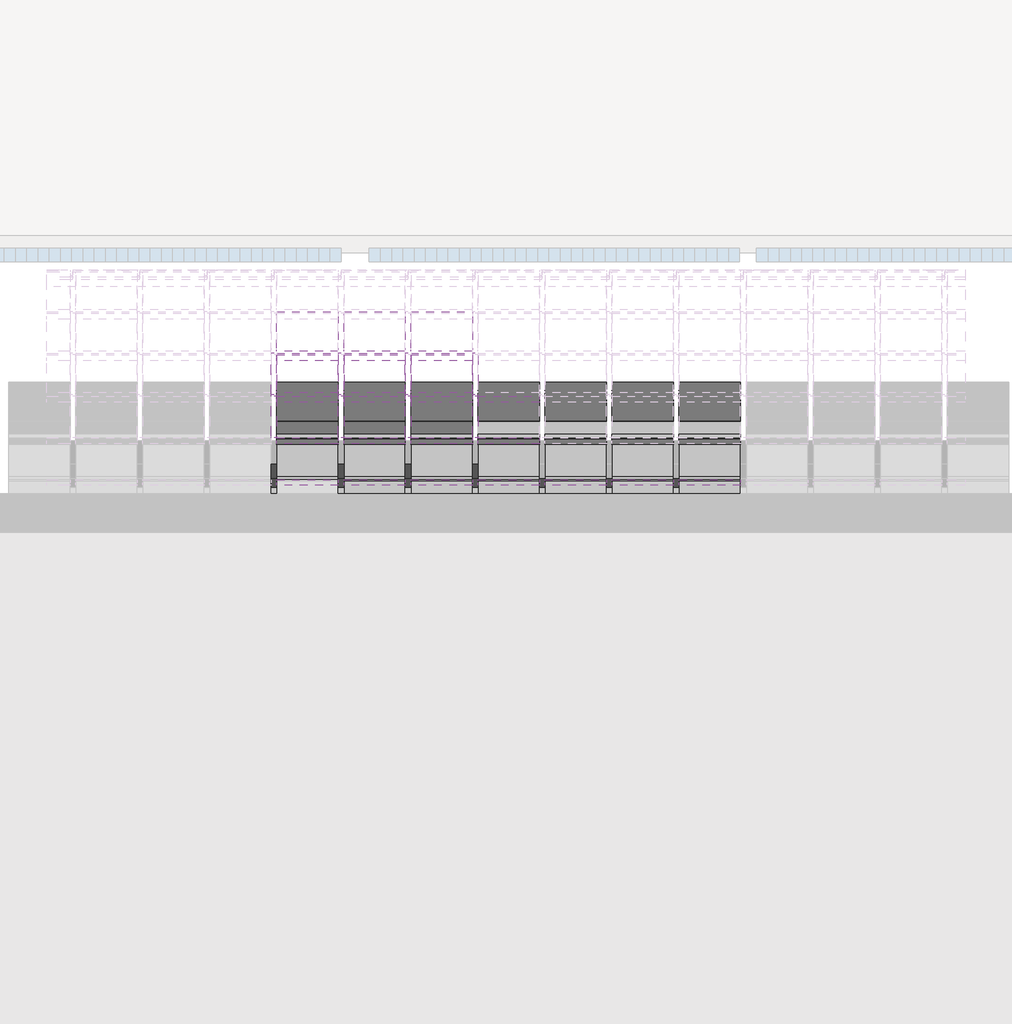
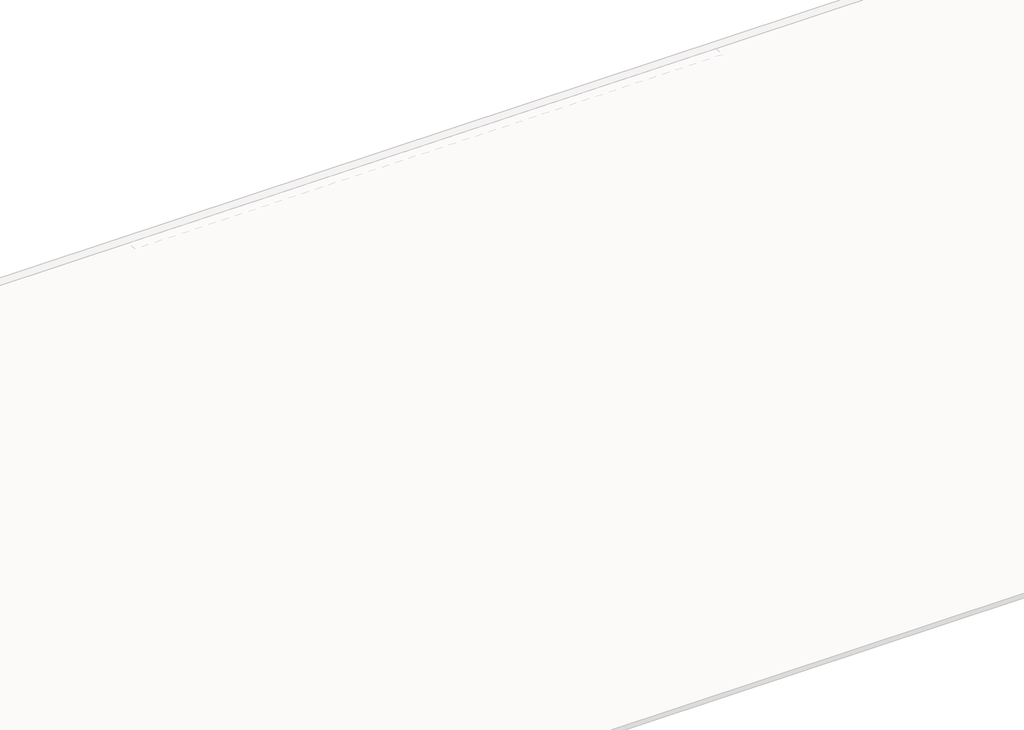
# One storey, part 30 of 57: 83 members, 41 plates.
"""IFC4 building model written with IfcOpenShell, lengths in millimetres."""

from ifc_helpers import new_model, si_unit, origin, place, context, project, spatial, transform, mapped, element, save
from components import rectangular_mullion_59984080, rectangular_mullion_2d2423ea, rectangular_mullion_caibro_e4384bba, rectangular_mullion_caibro_9bd7bc61, empty_system_panel_vazio_178faf58, empty_system_panel_vazio_2c78850d

model = new_model("IFC4")

# Units and contexts
model_context = context("Model", 3, world=origin())
ifc_project = project(units=[si_unit("LENGTHUNIT", "METRE", prefix="MILLI")], contexts=[model_context])

# Site, building, storey
site = spatial("IfcSite", under=ifc_project)
building = spatial("IfcBuilding", under=site)
storey = spatial("IfcBuildingStorey", under=building, Name="Nível 2", Elevation=4100.0)

# Members
placement = place(None, origin())
rectangular_mullion_shape = rectangular_mullion_59984080(model_context)
element("IfcMember", 1, ObjectType="Rectangular Mullion : Ripa", at=placement, inside=storey, context=model_context, shape_type="MappedRepresentation", body=[
    mapped(rectangular_mullion_shape, transform((18494.2138321, 12234.5331147, 4820.409113), x_axis=(0.0, 0.9578262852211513, 0.2873478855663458), y_axis=(0.0, 0.2873478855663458, -0.9578262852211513), z_axis=(-1.0, 0.0, 0.0))),
])
element("IfcMember", 2, ObjectType="Rectangular Mullion : Ripa", at=placement, inside=storey, context=model_context, shape_type="MappedRepresentation", body=[
    mapped(rectangular_mullion_shape, transform((19091.2685885, 12234.5331147, 4820.409113), x_axis=(0.0, 0.9578262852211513, 0.2873478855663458), y_axis=(0.0, 0.2873478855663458, -0.9578262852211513), z_axis=(-1.0, 0.0, 0.0))),
])
element("IfcMember", 3, ObjectType="Rectangular Mullion : Ripa", at=placement, inside=storey, context=model_context, shape_type="MappedRepresentation", body=[
    mapped(rectangular_mullion_shape, transform((19688.3233449, 12234.5331147, 4820.409113), x_axis=(0.0, 0.9578262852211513, 0.2873478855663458), y_axis=(0.0, 0.2873478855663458, -0.9578262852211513), z_axis=(-1.0, 0.0, 0.0))),
])
element("IfcMember", 4, ObjectType="Rectangular Mullion : Ripa", at=placement, inside=storey, context=model_context, shape_type="MappedRepresentation", body=[
    mapped(rectangular_mullion_shape, transform((18494.2138321, 12604.7103734, 4931.4622906), x_axis=(0.0, 0.9578262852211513, 0.2873478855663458), y_axis=(0.0, 0.2873478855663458, -0.9578262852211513), z_axis=(-1.0, 0.0, 0.0))),
])
element("IfcMember", 5, ObjectType="Rectangular Mullion : Ripa", at=placement, inside=storey, context=model_context, shape_type="MappedRepresentation", body=[
    mapped(rectangular_mullion_shape, transform((19091.2685885, 12604.7103734, 4931.4622906), x_axis=(0.0, 0.9578262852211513, 0.2873478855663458), y_axis=(0.0, 0.2873478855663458, -0.9578262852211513), z_axis=(-1.0, 0.0, 0.0))),
])
element("IfcMember", 6, ObjectType="Rectangular Mullion : Ripa", at=placement, inside=storey, context=model_context, shape_type="MappedRepresentation", body=[
    mapped(rectangular_mullion_shape, transform((19688.3233449, 12604.7103734, 4931.4622906), x_axis=(0.0, 0.9578262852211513, 0.2873478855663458), y_axis=(0.0, 0.2873478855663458, -0.9578262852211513), z_axis=(-1.0, 0.0, 0.0))),
])
element("IfcMember", 7, ObjectType="Rectangular Mullion : Ripa", at=placement, inside=storey, context=model_context, shape_type="MappedRepresentation", body=[
    mapped(rectangular_mullion_shape, transform((18494.2138321, 12974.8876321, 5042.5154682), x_axis=(0.0, 0.9578262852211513, 0.2873478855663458), y_axis=(0.0, 0.2873478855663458, -0.9578262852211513), z_axis=(-1.0, 0.0, 0.0))),
])
element("IfcMember", 8, ObjectType="Rectangular Mullion : Ripa", at=placement, inside=storey, context=model_context, shape_type="MappedRepresentation", body=[
    mapped(rectangular_mullion_shape, transform((19091.2685885, 12974.8876321, 5042.5154682), x_axis=(0.0, 0.9578262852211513, 0.2873478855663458), y_axis=(0.0, 0.2873478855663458, -0.9578262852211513), z_axis=(-1.0, 0.0, 0.0))),
])
element("IfcMember", 9, ObjectType="Rectangular Mullion : Ripa", at=placement, inside=storey, context=model_context, shape_type="MappedRepresentation", body=[
    mapped(rectangular_mullion_shape, transform((19688.3233449, 12974.8876321, 5042.5154682), x_axis=(0.0, 0.9578262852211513, 0.2873478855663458), y_axis=(0.0, 0.2873478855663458, -0.9578262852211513), z_axis=(-1.0, 0.0, 0.0))),
])
element("IfcMember", 10, ObjectType="Rectangular Mullion : Ripa", at=placement, inside=storey, context=model_context, shape_type="MappedRepresentation", body=[
    mapped(rectangular_mullion_shape, transform((16105.9948064, 13345.0648907, 5153.5686458), x_axis=(0.0, 0.9578262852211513, 0.2873478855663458), y_axis=(0.0, 0.2873478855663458, -0.9578262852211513), z_axis=(-1.0, 0.0, 0.0))),
])
element("IfcMember", 11, ObjectType="Rectangular Mullion : Ripa", at=placement, inside=storey, context=model_context, shape_type="MappedRepresentation", body=[
    mapped(rectangular_mullion_shape, transform((16703.0495628, 13345.0648907, 5153.5686458), x_axis=(0.0, 0.9578262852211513, 0.2873478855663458), y_axis=(0.0, 0.2873478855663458, -0.9578262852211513), z_axis=(-1.0, 0.0, 0.0))),
])
element("IfcMember", 12, ObjectType="Rectangular Mullion : Ripa", at=placement, inside=storey, context=model_context, shape_type="MappedRepresentation", body=[
    mapped(rectangular_mullion_shape, transform((17300.1043192, 13345.0648907, 5153.5686458), x_axis=(0.0, 0.9578262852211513, 0.2873478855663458), y_axis=(0.0, 0.2873478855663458, -0.9578262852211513), z_axis=(-1.0, 0.0, 0.0))),
])
element("IfcMember", 13, ObjectType="Rectangular Mullion : Ripa", at=placement, inside=storey, context=model_context, shape_type="MappedRepresentation", body=[
    mapped(rectangular_mullion_shape, transform((17897.1590756, 13345.0648907, 5153.5686458), x_axis=(0.0, 0.9578262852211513, 0.2873478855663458), y_axis=(0.0, 0.2873478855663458, -0.9578262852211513), z_axis=(-1.0, 0.0, 0.0))),
])
element("IfcMember", 14, ObjectType="Rectangular Mullion : Ripa", at=placement, inside=storey, context=model_context, shape_type="MappedRepresentation", body=[
    mapped(rectangular_mullion_shape, transform((18494.2138321, 13345.0648907, 5153.5686458), x_axis=(0.0, 0.9578262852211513, 0.2873478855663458), y_axis=(0.0, 0.2873478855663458, -0.9578262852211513), z_axis=(-1.0, 0.0, 0.0))),
])
element("IfcMember", 15, ObjectType="Rectangular Mullion : Ripa", at=placement, inside=storey, context=model_context, shape_type="MappedRepresentation", body=[
    mapped(rectangular_mullion_shape, transform((19091.2685885, 13345.0648907, 5153.5686458), x_axis=(0.0, 0.9578262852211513, 0.2873478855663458), y_axis=(0.0, 0.2873478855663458, -0.9578262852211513), z_axis=(-1.0, 0.0, 0.0))),
])
element("IfcMember", 16, ObjectType="Rectangular Mullion : Ripa", at=placement, inside=storey, context=model_context, shape_type="MappedRepresentation", body=[
    mapped(rectangular_mullion_shape, transform((19688.3233449, 13345.0648907, 5153.5686458), x_axis=(0.0, 0.9578262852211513, 0.2873478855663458), y_axis=(0.0, 0.2873478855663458, -0.9578262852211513), z_axis=(-1.0, 0.0, 0.0))),
])
element("IfcMember", 17, ObjectType="Rectangular Mullion : Ripa", at=placement, inside=storey, context=model_context, shape_type="MappedRepresentation", body=[
    mapped(rectangular_mullion_shape, transform((16105.9948064, 13715.2421494, 5264.6218234), x_axis=(0.0, 0.9578262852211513, 0.2873478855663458), y_axis=(0.0, 0.2873478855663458, -0.9578262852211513), z_axis=(-1.0, 0.0, 0.0))),
])
element("IfcMember", 18, ObjectType="Rectangular Mullion : Ripa", at=placement, inside=storey, context=model_context, shape_type="MappedRepresentation", body=[
    mapped(rectangular_mullion_shape, transform((16703.0495628, 13715.2421494, 5264.6218234), x_axis=(0.0, 0.9578262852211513, 0.2873478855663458), y_axis=(0.0, 0.2873478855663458, -0.9578262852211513), z_axis=(-1.0, 0.0, 0.0))),
])
element("IfcMember", 19, ObjectType="Rectangular Mullion : Ripa", at=placement, inside=storey, context=model_context, shape_type="MappedRepresentation", body=[
    mapped(rectangular_mullion_shape, transform((17300.1043192, 13715.2421494, 5264.6218234), x_axis=(0.0, 0.9578262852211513, 0.2873478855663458), y_axis=(0.0, 0.2873478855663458, -0.9578262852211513), z_axis=(-1.0, 0.0, 0.0))),
])
element("IfcMember", 20, ObjectType="Rectangular Mullion : Ripa", at=placement, inside=storey, context=model_context, shape_type="MappedRepresentation", body=[
    mapped(rectangular_mullion_shape, transform((17897.1590756, 13715.2421494, 5264.6218234), x_axis=(0.0, 0.9578262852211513, 0.2873478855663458), y_axis=(0.0, 0.2873478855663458, -0.9578262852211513), z_axis=(-1.0, 0.0, 0.0))),
])
element("IfcMember", 21, ObjectType="Rectangular Mullion : Ripa", at=placement, inside=storey, context=model_context, shape_type="MappedRepresentation", body=[
    mapped(rectangular_mullion_shape, transform((18494.2138321, 13715.2421494, 5264.6218234), x_axis=(0.0, 0.9578262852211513, 0.2873478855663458), y_axis=(0.0, 0.2873478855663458, -0.9578262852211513), z_axis=(-1.0, 0.0, 0.0))),
])
element("IfcMember", 22, ObjectType="Rectangular Mullion : Ripa", at=placement, inside=storey, context=model_context, shape_type="MappedRepresentation", body=[
    mapped(rectangular_mullion_shape, transform((19091.2685885, 13715.2421494, 5264.6218234), x_axis=(0.0, 0.9578262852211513, 0.2873478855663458), y_axis=(0.0, 0.2873478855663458, -0.9578262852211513), z_axis=(-1.0, 0.0, 0.0))),
])
element("IfcMember", 23, ObjectType="Rectangular Mullion : Ripa", at=placement, inside=storey, context=model_context, shape_type="MappedRepresentation", body=[
    mapped(rectangular_mullion_shape, transform((19688.3233449, 13715.2421494, 5264.6218234), x_axis=(0.0, 0.9578262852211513, 0.2873478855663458), y_axis=(0.0, 0.2873478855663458, -0.9578262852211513), z_axis=(-1.0, 0.0, 0.0))),
])
element("IfcMember", 24, ObjectType="Rectangular Mullion : Ripa", at=placement, inside=storey, context=model_context, shape_type="MappedRepresentation", body=[
    mapped(rectangular_mullion_shape, transform((16105.9948064, 14085.4194081, 5375.675001), x_axis=(0.0, 0.9578262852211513, 0.2873478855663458), y_axis=(0.0, 0.2873478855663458, -0.9578262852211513), z_axis=(-1.0, 0.0, 0.0))),
])
element("IfcMember", 25, ObjectType="Rectangular Mullion : Ripa", at=placement, inside=storey, context=model_context, shape_type="MappedRepresentation", body=[
    mapped(rectangular_mullion_shape, transform((16703.0495628, 14085.4194081, 5375.675001), x_axis=(0.0, 0.9578262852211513, 0.2873478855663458), y_axis=(0.0, 0.2873478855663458, -0.9578262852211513), z_axis=(-1.0, 0.0, 0.0))),
])
element("IfcMember", 26, ObjectType="Rectangular Mullion : Ripa", at=placement, inside=storey, context=model_context, shape_type="MappedRepresentation", body=[
    mapped(rectangular_mullion_shape, transform((17300.1043192, 14085.4194081, 5375.675001), x_axis=(0.0, 0.9578262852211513, 0.2873478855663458), y_axis=(0.0, 0.2873478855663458, -0.9578262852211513), z_axis=(-1.0, 0.0, 0.0))),
])
element("IfcMember", 27, ObjectType="Rectangular Mullion : Ripa", at=placement, inside=storey, context=model_context, shape_type="MappedRepresentation", body=[
    mapped(rectangular_mullion_shape, transform((17897.1590756, 14085.4194081, 5375.675001), x_axis=(0.0, 0.9578262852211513, 0.2873478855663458), y_axis=(0.0, 0.2873478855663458, -0.9578262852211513), z_axis=(-1.0, 0.0, 0.0))),
])
element("IfcMember", 28, ObjectType="Rectangular Mullion : Ripa", at=placement, inside=storey, context=model_context, shape_type="MappedRepresentation", body=[
    mapped(rectangular_mullion_shape, transform((16105.9948064, 14455.5966667, 5486.7281786), x_axis=(0.0, 0.9578262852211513, 0.2873478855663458), y_axis=(0.0, 0.2873478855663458, -0.9578262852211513), z_axis=(-1.0, 0.0, 0.0))),
])
element("IfcMember", 29, ObjectType="Rectangular Mullion : Ripa", at=placement, inside=storey, context=model_context, shape_type="MappedRepresentation", body=[
    mapped(rectangular_mullion_shape, transform((16703.0495628, 14455.5966667, 5486.7281786), x_axis=(0.0, 0.9578262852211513, 0.2873478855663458), y_axis=(0.0, 0.2873478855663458, -0.9578262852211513), z_axis=(-1.0, 0.0, 0.0))),
])
element("IfcMember", 30, ObjectType="Rectangular Mullion : Ripa", at=placement, inside=storey, context=model_context, shape_type="MappedRepresentation", body=[
    mapped(rectangular_mullion_shape, transform((17300.1043192, 14455.5966667, 5486.7281786), x_axis=(0.0, 0.9578262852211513, 0.2873478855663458), y_axis=(0.0, 0.2873478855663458, -0.9578262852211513), z_axis=(-1.0, 0.0, 0.0))),
])
element("IfcMember", 31, ObjectType="Rectangular Mullion : Ripa", at=placement, inside=storey, context=model_context, shape_type="MappedRepresentation", body=[
    mapped(rectangular_mullion_shape, transform((17897.1590756, 14455.5966667, 5486.7281786), x_axis=(0.0, 0.9578262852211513, 0.2873478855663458), y_axis=(0.0, 0.2873478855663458, -0.9578262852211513), z_axis=(-1.0, 0.0, 0.0))),
])
element("IfcMember", 32, ObjectType="Rectangular Mullion : Ripa", at=placement, inside=storey, context=model_context, shape_type="MappedRepresentation", body=[
    mapped(rectangular_mullion_shape, transform((16105.9948064, 14825.7739254, 5597.7813562), x_axis=(0.0, 0.9578262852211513, 0.2873478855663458), y_axis=(0.0, 0.2873478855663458, -0.9578262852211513), z_axis=(-1.0, 0.0, 0.0))),
])
element("IfcMember", 33, ObjectType="Rectangular Mullion : Ripa", at=placement, inside=storey, context=model_context, shape_type="MappedRepresentation", body=[
    mapped(rectangular_mullion_shape, transform((16703.0495628, 14825.7739254, 5597.7813562), x_axis=(0.0, 0.9578262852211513, 0.2873478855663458), y_axis=(0.0, 0.2873478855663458, -0.9578262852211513), z_axis=(-1.0, 0.0, 0.0))),
])
element("IfcMember", 34, ObjectType="Rectangular Mullion : Ripa", at=placement, inside=storey, context=model_context, shape_type="MappedRepresentation", body=[
    mapped(rectangular_mullion_shape, transform((17300.1043192, 14825.7739254, 5597.7813562), x_axis=(0.0, 0.9578262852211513, 0.2873478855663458), y_axis=(0.0, 0.2873478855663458, -0.9578262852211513), z_axis=(-1.0, 0.0, 0.0))),
])
rectangular_mullion_2_shape = rectangular_mullion_2d2423ea(model_context)
element("IfcMember", 35, ObjectType="Rectangular Mullion : Terça", at=placement, inside=storey, context=model_context, shape_type="MappedRepresentation", body=[
    mapped(rectangular_mullion_2_shape, transform((16105.9948064, 13411.2689826, 5110.7880343), x_axis=(0.0, 0.9578262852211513, 0.2873478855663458), y_axis=(0.0, 0.2873478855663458, -0.9578262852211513), z_axis=(-1.0, 0.0, 0.0))),
])
element("IfcMember", 36, ObjectType="Rectangular Mullion : Terça", at=placement, inside=storey, context=model_context, shape_type="MappedRepresentation", body=[
    mapped(rectangular_mullion_2_shape, transform((16703.0495628, 13411.2689826, 5110.7880343), x_axis=(0.0, 0.9578262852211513, 0.2873478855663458), y_axis=(0.0, 0.2873478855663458, -0.9578262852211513), z_axis=(-1.0, 0.0, 0.0))),
])
element("IfcMember", 37, ObjectType="Rectangular Mullion : Terça", at=placement, inside=storey, context=model_context, shape_type="MappedRepresentation", body=[
    mapped(rectangular_mullion_2_shape, transform((17300.1043192, 13411.2689826, 5110.7880343), x_axis=(0.0, 0.9578262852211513, 0.2873478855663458), y_axis=(0.0, 0.2873478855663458, -0.9578262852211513), z_axis=(-1.0, 0.0, 0.0))),
])
element("IfcMember", 38, ObjectType="Rectangular Mullion : Terça", at=placement, inside=storey, context=model_context, shape_type="MappedRepresentation", body=[
    mapped(rectangular_mullion_2_shape, transform((17897.1590756, 13411.2689826, 5110.7880343), x_axis=(0.0, 0.9578262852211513, 0.2873478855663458), y_axis=(0.0, 0.2873478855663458, -0.9578262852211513), z_axis=(-1.0, 0.0, 0.0))),
])
element("IfcMember", 39, ObjectType="Rectangular Mullion : Terça", at=placement, inside=storey, context=model_context, shape_type="MappedRepresentation", body=[
    mapped(rectangular_mullion_2_shape, transform((18494.2138321, 13411.2689826, 5110.7880343), x_axis=(0.0, 0.9578262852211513, 0.2873478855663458), y_axis=(0.0, 0.2873478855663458, -0.9578262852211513), z_axis=(-1.0, 0.0, 0.0))),
])
element("IfcMember", 40, ObjectType="Rectangular Mullion : Terça", at=placement, inside=storey, context=model_context, shape_type="MappedRepresentation", body=[
    mapped(rectangular_mullion_2_shape, transform((19091.2685885, 13411.2689826, 5110.7880343), x_axis=(0.0, 0.9578262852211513, 0.2873478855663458), y_axis=(0.0, 0.2873478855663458, -0.9578262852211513), z_axis=(-1.0, 0.0, 0.0))),
])
element("IfcMember", 41, ObjectType="Rectangular Mullion : Terça", at=placement, inside=storey, context=model_context, shape_type="MappedRepresentation", body=[
    mapped(rectangular_mullion_2_shape, transform((19688.3233449, 13411.2689826, 5110.7880343), x_axis=(0.0, 0.9578262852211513, 0.2873478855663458), y_axis=(0.0, 0.2873478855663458, -0.9578262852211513), z_axis=(-1.0, 0.0, 0.0))),
])
rectangular_mullion_caibro_shape = rectangular_mullion_caibro_e4384bba(model_context)
element("IfcMember", 42, ObjectType="Rectangular Mullion : Caibro", at=placement, inside=storey, context=model_context, shape_type="MappedRepresentation", body=[
    mapped(rectangular_mullion_caibro_shape, transform((16080.9948064, 13345.0648907, 5153.5686458), x_axis=(1.0, 0.0, 0.0), y_axis=(0.0, 0.28734788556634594, -0.9578262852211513), z_axis=(0.0, 0.9578262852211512, 0.2873478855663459))),
])
element("IfcMember", 43, ObjectType="Rectangular Mullion : Caibro", at=placement, inside=storey, context=model_context, shape_type="MappedRepresentation", body=[
    mapped(rectangular_mullion_caibro_shape, transform((16080.9948064, 13715.2421494, 5264.6218234), x_axis=(1.0, 0.0, 0.0), y_axis=(0.0, 0.28734788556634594, -0.9578262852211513), z_axis=(0.0, 0.9578262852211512, 0.2873478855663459))),
])
element("IfcMember", 44, ObjectType="Rectangular Mullion : Caibro", at=placement, inside=storey, context=model_context, shape_type="MappedRepresentation", body=[
    mapped(rectangular_mullion_caibro_shape, transform((16080.9948064, 14085.4194081, 5375.675001), x_axis=(1.0, 0.0, 0.0), y_axis=(0.0, 0.28734788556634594, -0.9578262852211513), z_axis=(0.0, 0.9578262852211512, 0.2873478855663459))),
])
element("IfcMember", 45, ObjectType="Rectangular Mullion : Caibro", at=placement, inside=storey, context=model_context, shape_type="MappedRepresentation", body=[
    mapped(rectangular_mullion_caibro_shape, transform((16080.9948064, 14455.5966667, 5486.7281786), x_axis=(1.0, 0.0, 0.0), y_axis=(0.0, 0.2873478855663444, -0.9578262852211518), z_axis=(0.0, 0.9578262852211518, 0.2873478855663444))),
])
element("IfcMember", 46, ObjectType="Rectangular Mullion : Caibro", at=placement, inside=storey, context=model_context, shape_type="MappedRepresentation", body=[
    mapped(rectangular_mullion_caibro_shape, transform((16080.9948064, 14825.7739254, 5597.7813562), x_axis=(1.0, 0.0, 0.0), y_axis=(0.0, 0.287347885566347, -0.9578262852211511), z_axis=(0.0, 0.9578262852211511, 0.287347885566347))),
])
element("IfcMember", 47, ObjectType="Rectangular Mullion : Caibro", at=placement, inside=storey, context=model_context, shape_type="MappedRepresentation", body=[
    mapped(rectangular_mullion_caibro_shape, transform((16678.0495628, 13345.0648907, 5153.5686458), x_axis=(1.0, 0.0, 0.0), y_axis=(0.0, 0.28734788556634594, -0.9578262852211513), z_axis=(0.0, 0.9578262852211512, 0.2873478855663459))),
])
element("IfcMember", 48, ObjectType="Rectangular Mullion : Caibro", at=placement, inside=storey, context=model_context, shape_type="MappedRepresentation", body=[
    mapped(rectangular_mullion_caibro_shape, transform((16678.0495628, 13715.2421494, 5264.6218234), x_axis=(1.0, 0.0, 0.0), y_axis=(0.0, 0.28734788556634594, -0.9578262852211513), z_axis=(0.0, 0.9578262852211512, 0.2873478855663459))),
])
element("IfcMember", 49, ObjectType="Rectangular Mullion : Caibro", at=placement, inside=storey, context=model_context, shape_type="MappedRepresentation", body=[
    mapped(rectangular_mullion_caibro_shape, transform((16678.0495628, 14085.4194081, 5375.675001), x_axis=(1.0, 0.0, 0.0), y_axis=(0.0, 0.28734788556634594, -0.9578262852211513), z_axis=(0.0, 0.9578262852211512, 0.2873478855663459))),
])
element("IfcMember", 50, ObjectType="Rectangular Mullion : Caibro", at=placement, inside=storey, context=model_context, shape_type="MappedRepresentation", body=[
    mapped(rectangular_mullion_caibro_shape, transform((16678.0495628, 14455.5966667, 5486.7281786), x_axis=(1.0, 0.0, 0.0), y_axis=(0.0, 0.28734788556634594, -0.9578262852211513), z_axis=(0.0, 0.9578262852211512, 0.2873478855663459))),
])
element("IfcMember", 51, ObjectType="Rectangular Mullion : Caibro", at=placement, inside=storey, context=model_context, shape_type="MappedRepresentation", body=[
    mapped(rectangular_mullion_caibro_shape, transform((16678.0495628, 14825.7739254, 5597.7813562), x_axis=(1.0, 0.0, 0.0), y_axis=(0.0, 0.28734788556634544, -0.9578262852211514), z_axis=(0.0, 0.9578262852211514, 0.28734788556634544))),
])
element("IfcMember", 52, ObjectType="Rectangular Mullion : Caibro", at=placement, inside=storey, context=model_context, shape_type="MappedRepresentation", body=[
    mapped(rectangular_mullion_caibro_shape, transform((17275.1043192, 13345.0648907, 5153.5686458), x_axis=(1.0, 0.0, 0.0), y_axis=(0.0, 0.28734788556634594, -0.9578262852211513), z_axis=(0.0, 0.9578262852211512, 0.2873478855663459))),
])
element("IfcMember", 53, ObjectType="Rectangular Mullion : Caibro", at=placement, inside=storey, context=model_context, shape_type="MappedRepresentation", body=[
    mapped(rectangular_mullion_caibro_shape, transform((17275.1043192, 13715.2421494, 5264.6218234), x_axis=(1.0, 0.0, 0.0), y_axis=(0.0, 0.28734788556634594, -0.9578262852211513), z_axis=(0.0, 0.9578262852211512, 0.2873478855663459))),
])
element("IfcMember", 54, ObjectType="Rectangular Mullion : Caibro", at=placement, inside=storey, context=model_context, shape_type="MappedRepresentation", body=[
    mapped(rectangular_mullion_caibro_shape, transform((17275.1043192, 14085.4194081, 5375.675001), x_axis=(1.0, 0.0, 0.0), y_axis=(0.0, 0.28734788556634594, -0.9578262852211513), z_axis=(0.0, 0.9578262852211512, 0.2873478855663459))),
])
element("IfcMember", 55, ObjectType="Rectangular Mullion : Caibro", at=placement, inside=storey, context=model_context, shape_type="MappedRepresentation", body=[
    mapped(rectangular_mullion_caibro_shape, transform((17275.1043192, 14455.5966667, 5486.7281786), x_axis=(1.0, 0.0, 0.0), y_axis=(0.0, 0.28734788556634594, -0.9578262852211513), z_axis=(0.0, 0.9578262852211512, 0.2873478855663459))),
])
element("IfcMember", 56, ObjectType="Rectangular Mullion : Caibro", at=placement, inside=storey, context=model_context, shape_type="MappedRepresentation", body=[
    mapped(rectangular_mullion_caibro_shape, transform((17275.1043192, 14825.7739254, 5597.7813562), x_axis=(1.0, 0.0, 0.0), y_axis=(0.0, 0.28734788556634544, -0.9578262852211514), z_axis=(0.0, 0.9578262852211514, 0.28734788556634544))),
])
element("IfcMember", 57, ObjectType="Rectangular Mullion : Caibro", at=placement, inside=storey, context=model_context, shape_type="MappedRepresentation", body=[
    mapped(rectangular_mullion_caibro_shape, transform((17872.1590756, 13345.0648907, 5153.5686458), x_axis=(1.0, 0.0, 0.0), y_axis=(0.0, 0.28734788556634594, -0.9578262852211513), z_axis=(0.0, 0.9578262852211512, 0.2873478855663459))),
])
element("IfcMember", 58, ObjectType="Rectangular Mullion : Caibro", at=placement, inside=storey, context=model_context, shape_type="MappedRepresentation", body=[
    mapped(rectangular_mullion_caibro_shape, transform((17872.1590756, 13715.2421494, 5264.6218234), x_axis=(1.0, 0.0, 0.0), y_axis=(0.0, 0.28734788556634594, -0.9578262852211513), z_axis=(0.0, 0.9578262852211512, 0.2873478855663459))),
])
element("IfcMember", 59, ObjectType="Rectangular Mullion : Caibro", at=placement, inside=storey, context=model_context, shape_type="MappedRepresentation", body=[
    mapped(rectangular_mullion_caibro_shape, transform((17872.1590756, 14085.4194081, 5375.675001), x_axis=(1.0, 0.0, 0.0), y_axis=(0.0, 0.28734788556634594, -0.9578262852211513), z_axis=(0.0, 0.9578262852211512, 0.2873478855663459))),
])
element("IfcMember", 60, ObjectType="Rectangular Mullion : Caibro", at=placement, inside=storey, context=model_context, shape_type="MappedRepresentation", body=[
    mapped(rectangular_mullion_caibro_shape, transform((17872.1590756, 14455.5966667, 5486.7281786), x_axis=(1.0, 0.0, 0.0), y_axis=(0.0, 0.28734788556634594, -0.9578262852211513), z_axis=(0.0, 0.9578262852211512, 0.2873478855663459))),
])
element("IfcMember", 61, ObjectType="Rectangular Mullion : Caibro", at=placement, inside=storey, context=model_context, shape_type="MappedRepresentation", body=[
    mapped(rectangular_mullion_caibro_shape, transform((17872.1590756, 14825.7739254, 5597.7813562), x_axis=(1.0, 0.0, 0.0), y_axis=(0.0, 0.28734788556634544, -0.9578262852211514), z_axis=(0.0, 0.9578262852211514, 0.28734788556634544))),
])
element("IfcMember", 62, ObjectType="Rectangular Mullion : Caibro", at=placement, inside=storey, context=model_context, shape_type="MappedRepresentation", body=[
    mapped(rectangular_mullion_caibro_shape, transform((18469.2138321, 12234.5331147, 4820.409113), x_axis=(1.0, 0.0, 0.0), y_axis=(0.0, 0.2873478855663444, -0.9578262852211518), z_axis=(0.0, 0.9578262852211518, 0.2873478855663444))),
])
element("IfcMember", 63, ObjectType="Rectangular Mullion : Caibro", at=placement, inside=storey, context=model_context, shape_type="MappedRepresentation", body=[
    mapped(rectangular_mullion_caibro_shape, transform((18469.2138321, 12604.7103734, 4931.4622906), x_axis=(1.0, 0.0, 0.0), y_axis=(0.0, 0.2873478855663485, -0.9578262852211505), z_axis=(0.0, 0.9578262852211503, 0.28734788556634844))),
])
element("IfcMember", 64, ObjectType="Rectangular Mullion : Caibro", at=placement, inside=storey, context=model_context, shape_type="MappedRepresentation", body=[
    mapped(rectangular_mullion_caibro_shape, transform((18469.2138321, 12974.8876321, 5042.5154682), x_axis=(1.0, 0.0, 0.0), y_axis=(0.0, 0.2873478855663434, -0.957826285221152), z_axis=(0.0, 0.957826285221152, 0.2873478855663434))),
])
element("IfcMember", 65, ObjectType="Rectangular Mullion : Caibro", at=placement, inside=storey, context=model_context, shape_type="MappedRepresentation", body=[
    mapped(rectangular_mullion_caibro_shape, transform((18469.2138321, 13345.0648907, 5153.5686458), x_axis=(1.0, 0.0, 0.0), y_axis=(0.0, 0.28734788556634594, -0.9578262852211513), z_axis=(0.0, 0.9578262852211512, 0.2873478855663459))),
])
element("IfcMember", 66, ObjectType="Rectangular Mullion : Caibro", at=placement, inside=storey, context=model_context, shape_type="MappedRepresentation", body=[
    mapped(rectangular_mullion_caibro_shape, transform((18469.2138321, 13715.2421494, 5264.6218234), x_axis=(1.0, 0.0, 0.0), y_axis=(0.0, 0.28734788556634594, -0.9578262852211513), z_axis=(0.0, 0.9578262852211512, 0.2873478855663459))),
])
element("IfcMember", 67, ObjectType="Rectangular Mullion : Caibro", at=placement, inside=storey, context=model_context, shape_type="MappedRepresentation", body=[
    mapped(rectangular_mullion_caibro_shape, transform((19066.2685885, 12234.5331147, 4820.409113), x_axis=(1.0, 0.0, 0.0), y_axis=(0.0, 0.2873478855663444, -0.9578262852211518), z_axis=(0.0, 0.9578262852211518, 0.2873478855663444))),
])
element("IfcMember", 68, ObjectType="Rectangular Mullion : Caibro", at=placement, inside=storey, context=model_context, shape_type="MappedRepresentation", body=[
    mapped(rectangular_mullion_caibro_shape, transform((19066.2685885, 12604.7103734, 4931.4622906), x_axis=(1.0, 0.0, 0.0), y_axis=(0.0, 0.2873478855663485, -0.9578262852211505), z_axis=(0.0, 0.9578262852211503, 0.28734788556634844))),
])
element("IfcMember", 69, ObjectType="Rectangular Mullion : Caibro", at=placement, inside=storey, context=model_context, shape_type="MappedRepresentation", body=[
    mapped(rectangular_mullion_caibro_shape, transform((19066.2685885, 12974.8876321, 5042.5154682), x_axis=(1.0, 0.0, 0.0), y_axis=(0.0, 0.2873478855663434, -0.957826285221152), z_axis=(0.0, 0.957826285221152, 0.2873478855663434))),
])
element("IfcMember", 70, ObjectType="Rectangular Mullion : Caibro", at=placement, inside=storey, context=model_context, shape_type="MappedRepresentation", body=[
    mapped(rectangular_mullion_caibro_shape, transform((19066.2685885, 13345.0648907, 5153.5686458), x_axis=(1.0, 0.0, 0.0), y_axis=(0.0, 0.28734788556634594, -0.9578262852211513), z_axis=(0.0, 0.9578262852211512, 0.2873478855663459))),
])
element("IfcMember", 71, ObjectType="Rectangular Mullion : Caibro", at=placement, inside=storey, context=model_context, shape_type="MappedRepresentation", body=[
    mapped(rectangular_mullion_caibro_shape, transform((19066.2685885, 13715.2421494, 5264.6218234), x_axis=(1.0, 0.0, 0.0), y_axis=(0.0, 0.28734788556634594, -0.9578262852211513), z_axis=(0.0, 0.9578262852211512, 0.2873478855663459))),
])
element("IfcMember", 72, ObjectType="Rectangular Mullion : Caibro", at=placement, inside=storey, context=model_context, shape_type="MappedRepresentation", body=[
    mapped(rectangular_mullion_caibro_shape, transform((19663.3233449, 12234.5331147, 4820.409113), x_axis=(1.0, 0.0, 0.0), y_axis=(0.0, 0.2873478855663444, -0.9578262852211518), z_axis=(0.0, 0.9578262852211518, 0.2873478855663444))),
])
element("IfcMember", 73, ObjectType="Rectangular Mullion : Caibro", at=placement, inside=storey, context=model_context, shape_type="MappedRepresentation", body=[
    mapped(rectangular_mullion_caibro_shape, transform((19663.3233449, 12604.7103734, 4931.4622906), x_axis=(1.0, 0.0, 0.0), y_axis=(0.0, 0.2873478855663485, -0.9578262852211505), z_axis=(0.0, 0.9578262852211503, 0.28734788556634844))),
])
element("IfcMember", 74, ObjectType="Rectangular Mullion : Caibro", at=placement, inside=storey, context=model_context, shape_type="MappedRepresentation", body=[
    mapped(rectangular_mullion_caibro_shape, transform((19663.3233449, 12974.8876321, 5042.5154682), x_axis=(1.0, 0.0, 0.0), y_axis=(0.0, 0.2873478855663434, -0.957826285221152), z_axis=(0.0, 0.957826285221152, 0.2873478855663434))),
])
element("IfcMember", 75, ObjectType="Rectangular Mullion : Caibro", at=placement, inside=storey, context=model_context, shape_type="MappedRepresentation", body=[
    mapped(rectangular_mullion_caibro_shape, transform((19663.3233449, 13345.0648907, 5153.5686458), x_axis=(1.0, 0.0, 0.0), y_axis=(0.0, 0.28734788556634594, -0.9578262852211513), z_axis=(0.0, 0.9578262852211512, 0.2873478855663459))),
])
element("IfcMember", 76, ObjectType="Rectangular Mullion : Caibro", at=placement, inside=storey, context=model_context, shape_type="MappedRepresentation", body=[
    mapped(rectangular_mullion_caibro_shape, transform((19663.3233449, 13715.2421494, 5264.6218234), x_axis=(1.0, 0.0, 0.0), y_axis=(0.0, 0.28734788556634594, -0.9578262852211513), z_axis=(0.0, 0.9578262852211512, 0.2873478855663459))),
])
rectangular_mullion_caibro_2_shape = rectangular_mullion_caibro_9bd7bc61(model_context)
element("IfcMember", 77, ObjectType="Rectangular Mullion : Caibro", at=placement, inside=storey, context=model_context, shape_type="MappedRepresentation", body=[
    mapped(rectangular_mullion_caibro_2_shape, transform((16080.9948064, 13411.2689826, 5110.7880343), x_axis=(1.0, 0.0, 0.0), y_axis=(0.0, 0.2873478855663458, -0.9578262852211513), z_axis=(0.0, 0.9578262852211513, 0.2873478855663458))),
])
element("IfcMember", 78, ObjectType="Rectangular Mullion : Caibro", at=placement, inside=storey, context=model_context, shape_type="MappedRepresentation", body=[
    mapped(rectangular_mullion_caibro_2_shape, transform((16678.0495628, 13411.2689826, 5110.7880343), x_axis=(1.0, 0.0, 0.0), y_axis=(0.0, 0.2873478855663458, -0.9578262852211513), z_axis=(0.0, 0.9578262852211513, 0.2873478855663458))),
])
element("IfcMember", 79, ObjectType="Rectangular Mullion : Caibro", at=placement, inside=storey, context=model_context, shape_type="MappedRepresentation", body=[
    mapped(rectangular_mullion_caibro_2_shape, transform((17275.1043192, 13411.2689826, 5110.7880343), x_axis=(1.0, 0.0, 0.0), y_axis=(0.0, 0.2873478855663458, -0.9578262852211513), z_axis=(0.0, 0.9578262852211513, 0.2873478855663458))),
])
element("IfcMember", 80, ObjectType="Rectangular Mullion : Caibro", at=placement, inside=storey, context=model_context, shape_type="MappedRepresentation", body=[
    mapped(rectangular_mullion_caibro_2_shape, transform((17872.1590756, 13411.2689826, 5110.7880343), x_axis=(1.0, 0.0, 0.0), y_axis=(0.0, 0.2873478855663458, -0.9578262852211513), z_axis=(0.0, 0.9578262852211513, 0.2873478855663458))),
])
element("IfcMember", 81, ObjectType="Rectangular Mullion : Caibro", at=placement, inside=storey, context=model_context, shape_type="MappedRepresentation", body=[
    mapped(rectangular_mullion_caibro_2_shape, transform((18469.2138321, 13411.2689826, 5110.7880343), x_axis=(1.0, 0.0, 0.0), y_axis=(0.0, 0.2873478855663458, -0.9578262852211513), z_axis=(0.0, 0.9578262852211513, 0.2873478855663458))),
])
element("IfcMember", 82, ObjectType="Rectangular Mullion : Caibro", at=placement, inside=storey, context=model_context, shape_type="MappedRepresentation", body=[
    mapped(rectangular_mullion_caibro_2_shape, transform((19066.2685885, 13411.2689826, 5110.7880343), x_axis=(1.0, 0.0, 0.0), y_axis=(0.0, 0.2873478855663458, -0.9578262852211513), z_axis=(0.0, 0.9578262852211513, 0.2873478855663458))),
])
element("IfcMember", 83, ObjectType="Rectangular Mullion : Caibro", at=placement, inside=storey, context=model_context, shape_type="MappedRepresentation", body=[
    mapped(rectangular_mullion_caibro_2_shape, transform((19663.3233449, 13411.2689826, 5110.7880343), x_axis=(1.0, 0.0, 0.0), y_axis=(0.0, 0.2873478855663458, -0.9578262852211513), z_axis=(0.0, 0.9578262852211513, 0.2873478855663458))),
])

# Plates
empty_system_panel_vazio_shape = empty_system_panel_vazio_178faf58(model_context)
element("IfcPlate", 84, ObjectType="Empty System Panel : Vazio", at=placement, inside=storey, context=model_context, shape_type="MappedRepresentation", body=[
    mapped(empty_system_panel_vazio_shape, transform((18170.6864538, 12234.5331147, 4820.409113), x_axis=(1.0, 0.0, 0.0), y_axis=(0.0, 0.2873478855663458, -0.9578262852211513), z_axis=(0.0, 0.9578262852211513, 0.2873478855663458))),
])
element("IfcPlate", 85, ObjectType="Empty System Panel : Vazio", at=placement, inside=storey, context=model_context, shape_type="MappedRepresentation", body=[
    mapped(empty_system_panel_vazio_shape, transform((18767.7412103, 12234.5331147, 4820.409113), x_axis=(1.0, 0.0, 0.0), y_axis=(0.0, 0.2873478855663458, -0.9578262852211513), z_axis=(0.0, 0.9578262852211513, 0.2873478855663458))),
])
element("IfcPlate", 86, ObjectType="Empty System Panel : Vazio", at=placement, inside=storey, context=model_context, shape_type="MappedRepresentation", body=[
    mapped(empty_system_panel_vazio_shape, transform((19364.7959667, 12234.5331147, 4820.409113), x_axis=(1.0, 0.0, 0.0), y_axis=(0.0, 0.2873478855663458, -0.9578262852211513), z_axis=(0.0, 0.9578262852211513, 0.2873478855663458))),
])
element("IfcPlate", 87, ObjectType="Empty System Panel : Vazio", at=placement, inside=storey, context=model_context, shape_type="MappedRepresentation", body=[
    mapped(empty_system_panel_vazio_shape, transform((19961.8507231, 12234.5331147, 4820.409113), x_axis=(1.0, 0.0, 0.0), y_axis=(0.0, 0.2873478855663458, -0.9578262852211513), z_axis=(0.0, 0.9578262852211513, 0.2873478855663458))),
])
element("IfcPlate", 88, ObjectType="Empty System Panel : Vazio", at=placement, inside=storey, context=model_context, shape_type="MappedRepresentation", body=[
    mapped(empty_system_panel_vazio_shape, transform((18170.6864538, 12604.7103734, 4931.4622906), x_axis=(1.0, 0.0, 0.0), y_axis=(0.0, 0.2873478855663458, -0.9578262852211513), z_axis=(0.0, 0.9578262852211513, 0.2873478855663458))),
])
element("IfcPlate", 89, ObjectType="Empty System Panel : Vazio", at=placement, inside=storey, context=model_context, shape_type="MappedRepresentation", body=[
    mapped(empty_system_panel_vazio_shape, transform((18767.7412103, 12604.7103734, 4931.4622906), x_axis=(1.0, 0.0, 0.0), y_axis=(0.0, 0.2873478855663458, -0.9578262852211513), z_axis=(0.0, 0.9578262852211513, 0.2873478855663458))),
])
element("IfcPlate", 90, ObjectType="Empty System Panel : Vazio", at=placement, inside=storey, context=model_context, shape_type="MappedRepresentation", body=[
    mapped(empty_system_panel_vazio_shape, transform((19364.7959667, 12604.7103734, 4931.4622906), x_axis=(1.0, 0.0, 0.0), y_axis=(0.0, 0.2873478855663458, -0.9578262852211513), z_axis=(0.0, 0.9578262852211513, 0.2873478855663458))),
])
element("IfcPlate", 91, ObjectType="Empty System Panel : Vazio", at=placement, inside=storey, context=model_context, shape_type="MappedRepresentation", body=[
    mapped(empty_system_panel_vazio_shape, transform((19961.8507231, 12604.7103734, 4931.4622906), x_axis=(1.0, 0.0, 0.0), y_axis=(0.0, 0.2873478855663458, -0.9578262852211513), z_axis=(0.0, 0.9578262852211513, 0.2873478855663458))),
])
element("IfcPlate", 92, ObjectType="Empty System Panel : Vazio", at=placement, inside=storey, context=model_context, shape_type="MappedRepresentation", body=[
    mapped(empty_system_panel_vazio_shape, transform((18170.6864538, 12974.8876321, 5042.5154682), x_axis=(1.0, 0.0, 0.0), y_axis=(0.0, 0.2873478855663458, -0.9578262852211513), z_axis=(0.0, 0.9578262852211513, 0.2873478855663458))),
])
element("IfcPlate", 93, ObjectType="Empty System Panel : Vazio", at=placement, inside=storey, context=model_context, shape_type="MappedRepresentation", body=[
    mapped(empty_system_panel_vazio_shape, transform((18767.7412103, 12974.8876321, 5042.5154682), x_axis=(1.0, 0.0, 0.0), y_axis=(0.0, 0.2873478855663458, -0.9578262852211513), z_axis=(0.0, 0.9578262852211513, 0.2873478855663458))),
])
element("IfcPlate", 94, ObjectType="Empty System Panel : Vazio", at=placement, inside=storey, context=model_context, shape_type="MappedRepresentation", body=[
    mapped(empty_system_panel_vazio_shape, transform((19364.7959667, 12974.8876321, 5042.5154682), x_axis=(1.0, 0.0, 0.0), y_axis=(0.0, 0.2873478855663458, -0.9578262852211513), z_axis=(0.0, 0.9578262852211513, 0.2873478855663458))),
])
element("IfcPlate", 95, ObjectType="Empty System Panel : Vazio", at=placement, inside=storey, context=model_context, shape_type="MappedRepresentation", body=[
    mapped(empty_system_panel_vazio_shape, transform((19961.8507231, 12974.8876321, 5042.5154682), x_axis=(1.0, 0.0, 0.0), y_axis=(0.0, 0.2873478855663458, -0.9578262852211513), z_axis=(0.0, 0.9578262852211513, 0.2873478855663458))),
])
element("IfcPlate", 96, ObjectType="Empty System Panel : Vazio", at=placement, inside=storey, context=model_context, shape_type="MappedRepresentation", body=[
    mapped(empty_system_panel_vazio_shape, transform((16976.576941, 13345.0648907, 5153.5686458), x_axis=(1.0, 0.0, 0.0), y_axis=(0.0, 0.2873478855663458, -0.9578262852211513), z_axis=(0.0, 0.9578262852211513, 0.2873478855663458))),
])
element("IfcPlate", 97, ObjectType="Empty System Panel : Vazio", at=placement, inside=storey, context=model_context, shape_type="MappedRepresentation", body=[
    mapped(empty_system_panel_vazio_shape, transform((17573.6316974, 13345.0648907, 5153.5686458), x_axis=(1.0, 0.0, 0.0), y_axis=(0.0, 0.2873478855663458, -0.9578262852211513), z_axis=(0.0, 0.9578262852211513, 0.2873478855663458))),
])
element("IfcPlate", 98, ObjectType="Empty System Panel : Vazio", at=placement, inside=storey, context=model_context, shape_type="MappedRepresentation", body=[
    mapped(empty_system_panel_vazio_shape, transform((18170.6864538, 13345.0648907, 5153.5686458), x_axis=(1.0, 0.0, 0.0), y_axis=(0.0, 0.2873478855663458, -0.9578262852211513), z_axis=(0.0, 0.9578262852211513, 0.2873478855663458))),
])
element("IfcPlate", 99, ObjectType="Empty System Panel : Vazio", at=placement, inside=storey, context=model_context, shape_type="MappedRepresentation", body=[
    mapped(empty_system_panel_vazio_shape, transform((18767.7412103, 13345.0648907, 5153.5686458), x_axis=(1.0, 0.0, 0.0), y_axis=(0.0, 0.2873478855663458, -0.9578262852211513), z_axis=(0.0, 0.9578262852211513, 0.2873478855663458))),
])
element("IfcPlate", 100, ObjectType="Empty System Panel : Vazio", at=placement, inside=storey, context=model_context, shape_type="MappedRepresentation", body=[
    mapped(empty_system_panel_vazio_shape, transform((19364.7959667, 13345.0648907, 5153.5686458), x_axis=(1.0, 0.0, 0.0), y_axis=(0.0, 0.2873478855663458, -0.9578262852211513), z_axis=(0.0, 0.9578262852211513, 0.2873478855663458))),
])
element("IfcPlate", 101, ObjectType="Empty System Panel : Vazio", at=placement, inside=storey, context=model_context, shape_type="MappedRepresentation", body=[
    mapped(empty_system_panel_vazio_shape, transform((19961.8507231, 13345.0648907, 5153.5686458), x_axis=(1.0, 0.0, 0.0), y_axis=(0.0, 0.2873478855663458, -0.9578262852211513), z_axis=(0.0, 0.9578262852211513, 0.2873478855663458))),
])
element("IfcPlate", 102, ObjectType="Empty System Panel : Vazio", at=placement, inside=storey, context=model_context, shape_type="MappedRepresentation", body=[
    mapped(empty_system_panel_vazio_shape, transform((16379.5221846, 13715.2421494, 5264.6218234), x_axis=(1.0, 0.0, 0.0), y_axis=(0.0, 0.2873478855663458, -0.9578262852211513), z_axis=(0.0, 0.9578262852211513, 0.2873478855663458))),
])
element("IfcPlate", 103, ObjectType="Empty System Panel : Vazio", at=placement, inside=storey, context=model_context, shape_type="MappedRepresentation", body=[
    mapped(empty_system_panel_vazio_shape, transform((16976.576941, 13715.2421494, 5264.6218234), x_axis=(1.0, 0.0, 0.0), y_axis=(0.0, 0.2873478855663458, -0.9578262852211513), z_axis=(0.0, 0.9578262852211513, 0.2873478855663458))),
])
element("IfcPlate", 104, ObjectType="Empty System Panel : Vazio", at=placement, inside=storey, context=model_context, shape_type="MappedRepresentation", body=[
    mapped(empty_system_panel_vazio_shape, transform((17573.6316974, 13715.2421494, 5264.6218234), x_axis=(1.0, 0.0, 0.0), y_axis=(0.0, 0.2873478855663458, -0.9578262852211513), z_axis=(0.0, 0.9578262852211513, 0.2873478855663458))),
])
element("IfcPlate", 105, ObjectType="Empty System Panel : Vazio", at=placement, inside=storey, context=model_context, shape_type="MappedRepresentation", body=[
    mapped(empty_system_panel_vazio_shape, transform((18170.6864538, 13715.2421494, 5264.6218234), x_axis=(1.0, 0.0, 0.0), y_axis=(0.0, 0.2873478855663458, -0.9578262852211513), z_axis=(0.0, 0.9578262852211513, 0.2873478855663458))),
])
element("IfcPlate", 106, ObjectType="Empty System Panel : Vazio", at=placement, inside=storey, context=model_context, shape_type="MappedRepresentation", body=[
    mapped(empty_system_panel_vazio_shape, transform((18767.7412103, 13715.2421494, 5264.6218234), x_axis=(1.0, 0.0, 0.0), y_axis=(0.0, 0.2873478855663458, -0.9578262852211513), z_axis=(0.0, 0.9578262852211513, 0.2873478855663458))),
])
element("IfcPlate", 107, ObjectType="Empty System Panel : Vazio", at=placement, inside=storey, context=model_context, shape_type="MappedRepresentation", body=[
    mapped(empty_system_panel_vazio_shape, transform((19364.7959667, 13715.2421494, 5264.6218234), x_axis=(1.0, 0.0, 0.0), y_axis=(0.0, 0.2873478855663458, -0.9578262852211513), z_axis=(0.0, 0.9578262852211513, 0.2873478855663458))),
])
element("IfcPlate", 108, ObjectType="Empty System Panel : Vazio", at=placement, inside=storey, context=model_context, shape_type="MappedRepresentation", body=[
    mapped(empty_system_panel_vazio_shape, transform((19961.8507231, 13715.2421494, 5264.6218234), x_axis=(1.0, 0.0, 0.0), y_axis=(0.0, 0.2873478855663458, -0.9578262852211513), z_axis=(0.0, 0.9578262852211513, 0.2873478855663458))),
])
element("IfcPlate", 109, ObjectType="Empty System Panel : Vazio", at=placement, inside=storey, context=model_context, shape_type="MappedRepresentation", body=[
    mapped(empty_system_panel_vazio_shape, transform((16379.5221846, 14085.4194081, 5375.675001), x_axis=(1.0, 0.0, 0.0), y_axis=(0.0, 0.2873478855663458, -0.9578262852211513), z_axis=(0.0, 0.9578262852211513, 0.2873478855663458))),
])
element("IfcPlate", 110, ObjectType="Empty System Panel : Vazio", at=placement, inside=storey, context=model_context, shape_type="MappedRepresentation", body=[
    mapped(empty_system_panel_vazio_shape, transform((16976.576941, 14085.4194081, 5375.675001), x_axis=(1.0, 0.0, 0.0), y_axis=(0.0, 0.2873478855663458, -0.9578262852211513), z_axis=(0.0, 0.9578262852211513, 0.2873478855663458))),
])
element("IfcPlate", 111, ObjectType="Empty System Panel : Vazio", at=placement, inside=storey, context=model_context, shape_type="MappedRepresentation", body=[
    mapped(empty_system_panel_vazio_shape, transform((17573.6316974, 14085.4194081, 5375.675001), x_axis=(1.0, 0.0, 0.0), y_axis=(0.0, 0.2873478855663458, -0.9578262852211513), z_axis=(0.0, 0.9578262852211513, 0.2873478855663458))),
])
element("IfcPlate", 112, ObjectType="Empty System Panel : Vazio", at=placement, inside=storey, context=model_context, shape_type="MappedRepresentation", body=[
    mapped(empty_system_panel_vazio_shape, transform((16379.5221846, 14455.5966667, 5486.7281786), x_axis=(1.0, 0.0, 0.0), y_axis=(0.0, 0.2873478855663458, -0.9578262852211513), z_axis=(0.0, 0.9578262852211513, 0.2873478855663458))),
])
element("IfcPlate", 113, ObjectType="Empty System Panel : Vazio", at=placement, inside=storey, context=model_context, shape_type="MappedRepresentation", body=[
    mapped(empty_system_panel_vazio_shape, transform((16976.576941, 14455.5966667, 5486.7281786), x_axis=(1.0, 0.0, 0.0), y_axis=(0.0, 0.2873478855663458, -0.9578262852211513), z_axis=(0.0, 0.9578262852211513, 0.2873478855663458))),
])
element("IfcPlate", 114, ObjectType="Empty System Panel : Vazio", at=placement, inside=storey, context=model_context, shape_type="MappedRepresentation", body=[
    mapped(empty_system_panel_vazio_shape, transform((17573.6316974, 14455.5966667, 5486.7281786), x_axis=(1.0, 0.0, 0.0), y_axis=(0.0, 0.2873478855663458, -0.9578262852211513), z_axis=(0.0, 0.9578262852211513, 0.2873478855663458))),
])
element("IfcPlate", 115, ObjectType="Empty System Panel : Vazio", at=placement, inside=storey, context=model_context, shape_type="MappedRepresentation", body=[
    mapped(empty_system_panel_vazio_shape, transform((16379.5221846, 14825.7739254, 5597.7813562), x_axis=(1.0, 0.0, 0.0), y_axis=(0.0, 0.2873478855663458, -0.9578262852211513), z_axis=(0.0, 0.9578262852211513, 0.2873478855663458))),
])
element("IfcPlate", 116, ObjectType="Empty System Panel : Vazio", at=placement, inside=storey, context=model_context, shape_type="MappedRepresentation", body=[
    mapped(empty_system_panel_vazio_shape, transform((16976.576941, 14825.7739254, 5597.7813562), x_axis=(1.0, 0.0, 0.0), y_axis=(0.0, 0.2873478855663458, -0.9578262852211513), z_axis=(0.0, 0.9578262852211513, 0.2873478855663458))),
])
element("IfcPlate", 117, ObjectType="Empty System Panel : Vazio", at=placement, inside=storey, context=model_context, shape_type="MappedRepresentation", body=[
    mapped(empty_system_panel_vazio_shape, transform((17573.6316974, 14825.7739254, 5597.7813562), x_axis=(1.0, 0.0, 0.0), y_axis=(0.0, 0.2873478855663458, -0.9578262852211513), z_axis=(0.0, 0.9578262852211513, 0.2873478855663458))),
])
empty_system_panel_vazio_2_shape = empty_system_panel_vazio_2c78850d(model_context)
element("IfcPlate", 118, ObjectType="Empty System Panel : Vazio", at=placement, inside=storey, context=model_context, shape_type="MappedRepresentation", body=[
    mapped(empty_system_panel_vazio_2_shape, transform((16379.5221846, 13440.0037711, 5119.4084708), x_axis=(1.0, 0.0, 0.0), y_axis=(0.0, 0.2873478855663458, -0.9578262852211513), z_axis=(0.0, 0.9578262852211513, 0.2873478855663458))),
])
element("IfcPlate", 119, ObjectType="Empty System Panel : Vazio", at=placement, inside=storey, context=model_context, shape_type="MappedRepresentation", body=[
    mapped(empty_system_panel_vazio_2_shape, transform((16976.576941, 13440.0037711, 5119.4084708), x_axis=(1.0, 0.0, 0.0), y_axis=(0.0, 0.2873478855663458, -0.9578262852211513), z_axis=(0.0, 0.9578262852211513, 0.2873478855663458))),
])
element("IfcPlate", 120, ObjectType="Empty System Panel : Vazio", at=placement, inside=storey, context=model_context, shape_type="MappedRepresentation", body=[
    mapped(empty_system_panel_vazio_2_shape, transform((17573.6316974, 13440.0037711, 5119.4084708), x_axis=(1.0, 0.0, 0.0), y_axis=(0.0, 0.2873478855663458, -0.9578262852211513), z_axis=(0.0, 0.9578262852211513, 0.2873478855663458))),
])
element("IfcPlate", 121, ObjectType="Empty System Panel : Vazio", at=placement, inside=storey, context=model_context, shape_type="MappedRepresentation", body=[
    mapped(empty_system_panel_vazio_2_shape, transform((18170.6864538, 13440.0037711, 5119.4084708), x_axis=(1.0, 0.0, 0.0), y_axis=(0.0, 0.2873478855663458, -0.9578262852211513), z_axis=(0.0, 0.9578262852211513, 0.2873478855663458))),
])
element("IfcPlate", 122, ObjectType="Empty System Panel : Vazio", at=placement, inside=storey, context=model_context, shape_type="MappedRepresentation", body=[
    mapped(empty_system_panel_vazio_2_shape, transform((18767.7412103, 13440.0037711, 5119.4084708), x_axis=(1.0, 0.0, 0.0), y_axis=(0.0, 0.2873478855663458, -0.9578262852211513), z_axis=(0.0, 0.9578262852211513, 0.2873478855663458))),
])
element("IfcPlate", 123, ObjectType="Empty System Panel : Vazio", at=placement, inside=storey, context=model_context, shape_type="MappedRepresentation", body=[
    mapped(empty_system_panel_vazio_2_shape, transform((19364.7959667, 13440.0037711, 5119.4084708), x_axis=(1.0, 0.0, 0.0), y_axis=(0.0, 0.2873478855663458, -0.9578262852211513), z_axis=(0.0, 0.9578262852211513, 0.2873478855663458))),
])
element("IfcPlate", 124, ObjectType="Empty System Panel : Vazio", at=placement, inside=storey, context=model_context, shape_type="MappedRepresentation", body=[
    mapped(empty_system_panel_vazio_2_shape, transform((19961.8507231, 13440.0037711, 5119.4084708), x_axis=(1.0, 0.0, 0.0), y_axis=(0.0, 0.2873478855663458, -0.9578262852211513), z_axis=(0.0, 0.9578262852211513, 0.2873478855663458))),
])

save(model, "model.ifc")
